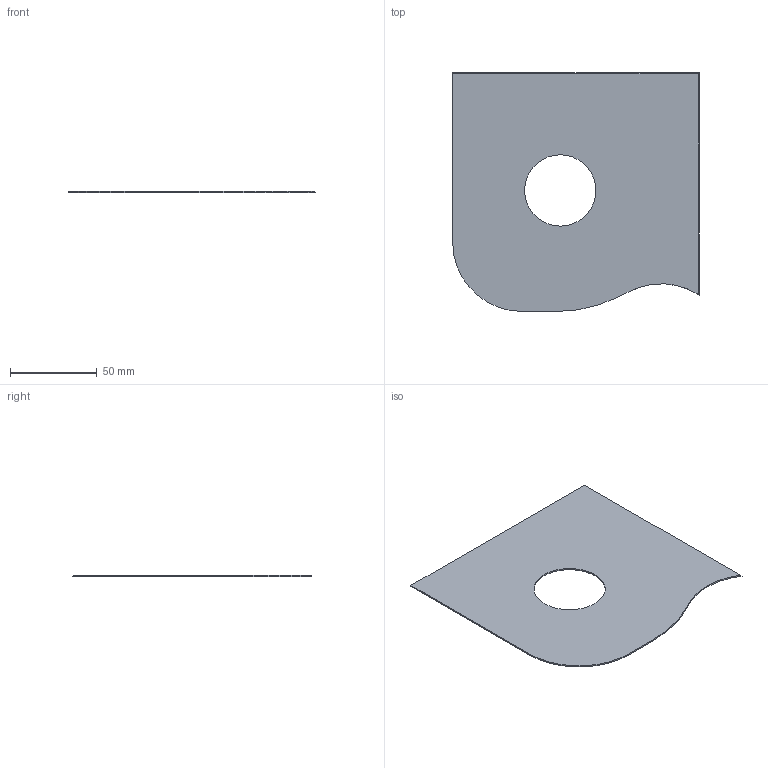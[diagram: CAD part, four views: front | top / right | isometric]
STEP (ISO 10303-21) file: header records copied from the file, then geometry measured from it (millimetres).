
FILE_DESCRIPTION(('STEP AP203'), '1');
FILE_NAME('麧罻 1-1', '', ('UNSPECIFIED'), ('UNSPECIFIED'), 'ASCON STEP Converter 1.3', 'ASCON Math Kernel', '');
FILE_SCHEMA(('CONFIG_CONTROL_DESIGN'));
Length unit declared in the file: millimetre
Bounding box: 141.9 x 137.4 x 0.8 mm (x, y, z)
Volume: 13602.1 mm3; surface area: 34616.1 mm2
Topology: 1 solids, 1 shells, 11 faces, 27 edges, 18 vertices
Faces by surface type: plane 7, cylinder 4
Full cylindrical faces by diameter (mm): 41 x1
Entity records: 460 total; most frequent: CARTESIAN_POINT 59, DIRECTION 57, ORIENTED_EDGE 52, EDGE_CURVE 26, AXIS2_PLACEMENT_3D 20, VERTEX_POINT 18, LINE 17, VECTOR 17
